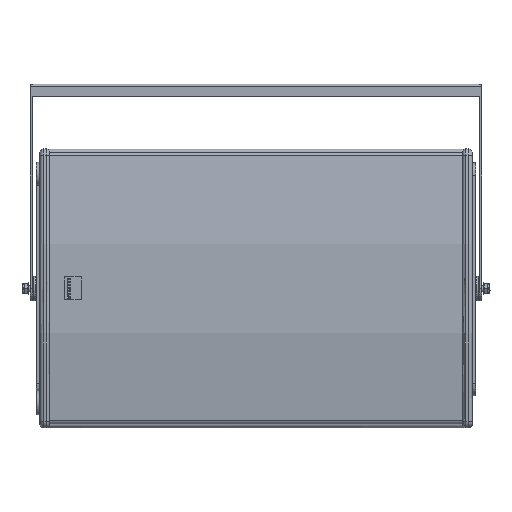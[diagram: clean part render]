
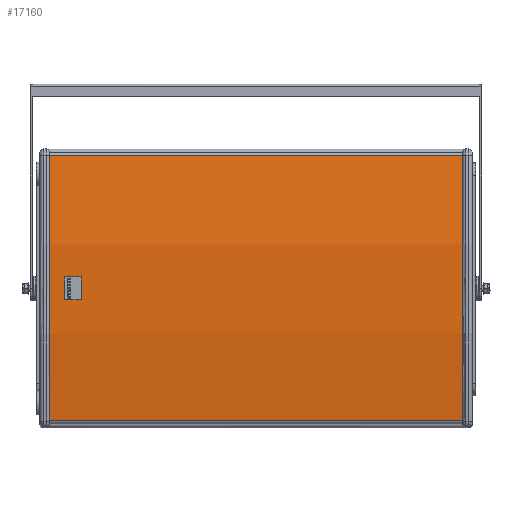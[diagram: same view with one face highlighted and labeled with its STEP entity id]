
A CAD part, top view. The second image highlights one B-rep face of the part: STEP entity #17160.
In plain terms, the highlighted cylindrical face has radius 1269.12 mm (diameter 2538.25 mm), a partial arc.
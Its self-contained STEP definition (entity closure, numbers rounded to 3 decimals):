
#4861 = DIRECTION ( 'NONE',  ( 0., 0., -1. ) ) ;
#4862 = DIRECTION ( 'NONE',  ( 1., 0., 0. ) ) ;
#4863 = CARTESIAN_POINT ( 'NONE',  ( 43.734, 1275.625, -225. ) ) ;
#4864 = AXIS2_PLACEMENT_3D ( 'NONE', #4863, #4862, #4861 ) ;
#4865 = CIRCLE ( 'NONE', #4864, 1269.125 ) ;
#4871 = CARTESIAN_POINT ( 'NONE',  ( 43.734, 24.66, -438.927 ) ) ;
#4873 = DIRECTION ( 'NONE',  ( -1., 0., 0. ) ) ;
#4874 = VECTOR ( 'NONE', #4873, 1000. ) ;
#4875 = CARTESIAN_POINT ( 'NONE',  ( 43.734, 24.66, -438.927 ) ) ;
#4881 = LINE ( 'NONE', #4875, #4874 ) ;
#4882 = CARTESIAN_POINT ( 'NONE',  ( 43.734, 24.66, -11.073 ) ) ;
#4883 = CARTESIAN_POINT ( 'NONE',  ( 711.734, 24.66, -438.927 ) ) ;
#4910 = CARTESIAN_POINT ( 'NONE',  ( 711.734, 24.66, -11.073 ) ) ;
#4911 = DIRECTION ( 'NONE',  ( 0., 0., -1. ) ) ;
#4912 = DIRECTION ( 'NONE',  ( 1., 0., 0. ) ) ;
#4913 = CARTESIAN_POINT ( 'NONE',  ( 711.734, 1275.625, -225. ) ) ;
#4914 = AXIS2_PLACEMENT_3D ( 'NONE', #4913, #4912, #4911 ) ;
#4915 = CIRCLE ( 'NONE', #4914, 1269.125 ) ;
#4921 = DIRECTION ( 'NONE',  ( 1., 0., 0. ) ) ;
#4922 = VECTOR ( 'NONE', #4921, 1000. ) ;
#4923 = CARTESIAN_POINT ( 'NONE',  ( 43.734, 24.66, -11.073 ) ) ;
#4924 = LINE ( 'NONE', #4923, #4922 ) ;
#4986 = DIRECTION ( 'NONE',  ( 0., 0., -1. ) ) ;
#4987 = DIRECTION ( 'NONE',  ( 1., 0., 0. ) ) ;
#4988 = CARTESIAN_POINT ( 'NONE',  ( 43.734, 1275.625, -225. ) ) ;
#4989 = AXIS2_PLACEMENT_3D ( 'NONE', #4988, #4987, #4986 ) ;
#4990 = CYLINDRICAL_SURFACE ( 'NONE', #4989, 1269.125 ) ;
#4991 = FACE_OUTER_BOUND ( 'NONE', #17075, .T. ) ;
#17075 = EDGE_LOOP ( 'NONE', ( #17093, #17079, #17096, #17104 ) ) ;
#17079 = ORIENTED_EDGE ( 'NONE', *, *, #17084, .F. ) ;
#17080 = VERTEX_POINT ( 'NONE', #4883 ) ;
#17081 = VERTEX_POINT ( 'NONE', #4882 ) ;
#17084 = EDGE_CURVE ( 'NONE', #17080, #17089, #4881, .T. ) ;
#17089 = VERTEX_POINT ( 'NONE', #4871 ) ;
#17090 = EDGE_CURVE ( 'NONE', #17081, #17089, #4865, .T. ) ;
#17091 = EDGE_CURVE ( 'NONE', #17081, #17103, #4924, .T. ) ;
#17093 = ORIENTED_EDGE ( 'NONE', *, *, #17090, .T. ) ;
#17096 = ORIENTED_EDGE ( 'NONE', *, *, #17097, .F. ) ;
#17097 = EDGE_CURVE ( 'NONE', #17103, #17080, #4915, .T. ) ;
#17103 = VERTEX_POINT ( 'NONE', #4910 ) ;
#17104 = ORIENTED_EDGE ( 'NONE', *, *, #17091, .F. ) ;
#17160 = ADVANCED_FACE ( 'NONE', ( #4991 ), #4990, .T. ) ;
